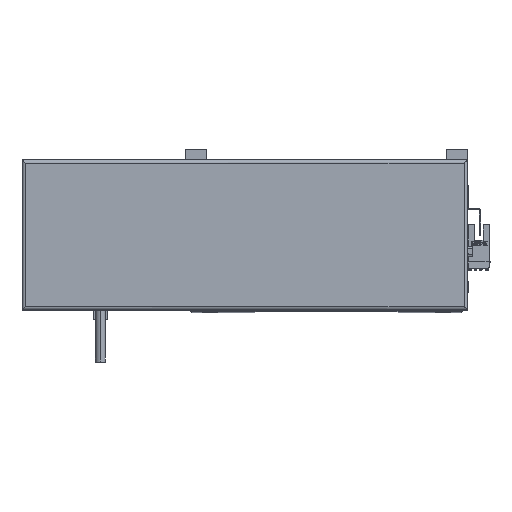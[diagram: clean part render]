
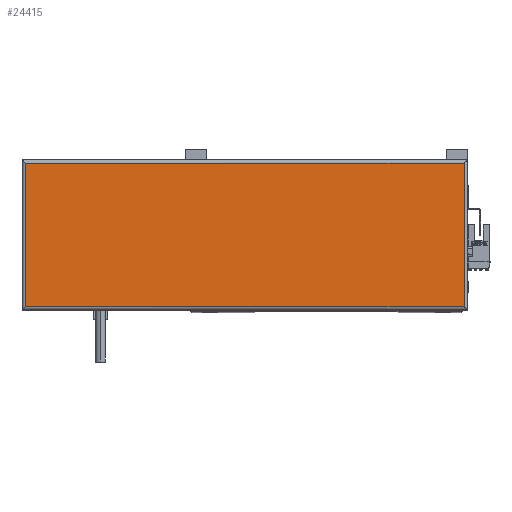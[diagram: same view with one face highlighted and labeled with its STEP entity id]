
A CAD part, top view. The second image highlights one B-rep face of the part: STEP entity #24415.
In plain terms, the highlighted planar face has unit normal (0, 0, 1).
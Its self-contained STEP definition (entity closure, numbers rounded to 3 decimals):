
#2519 = DIRECTION ( 'NONE',  ( 0., -1., 0. ) ) ;
#5099 = VECTOR ( 'NONE', #20316, 1000. ) ;
#6052 = ORIENTED_EDGE ( 'NONE', *, *, #36362, .T. ) ;
#9206 = EDGE_LOOP ( 'NONE', ( #44229, #6052, #28287, #42858 ) ) ;
#10611 = EDGE_CURVE ( 'NONE', #25715, #25072, #17831, .T. ) ;
#12348 = VERTEX_POINT ( 'NONE', #37646 ) ;
#12910 = LINE ( 'NONE', #42405, #17482 ) ;
#13332 = CARTESIAN_POINT ( 'NONE',  ( 133.5, 45., 44.8 ) ) ;
#13345 = EDGE_CURVE ( 'NONE', #45275, #12348, #16041, .T. ) ;
#13637 = CARTESIAN_POINT ( 'NONE',  ( 2., 88., 44.8 ) ) ;
#15259 = AXIS2_PLACEMENT_3D ( 'NONE', #13332, #42177, #37437 ) ;
#16041 = LINE ( 'NONE', #20583, #34576 ) ;
#17482 = VECTOR ( 'NONE', #24611, 1000. ) ;
#17831 = LINE ( 'NONE', #44525, #39218 ) ;
#20316 = DIRECTION ( 'NONE',  ( -1., 0., 0. ) ) ;
#20583 = CARTESIAN_POINT ( 'NONE',  ( 2., 0., 44.8 ) ) ;
#20858 = CARTESIAN_POINT ( 'NONE',  ( 265., 88., 44.8 ) ) ;
#23964 = EDGE_CURVE ( 'NONE', #12348, #25715, #12910, .T. ) ;
#24415 = ADVANCED_FACE ( 'NONE', ( #37739 ), #31311, .T. ) ;
#24611 = DIRECTION ( 'NONE',  ( 1., 0., 0. ) ) ;
#25072 = VERTEX_POINT ( 'NONE', #20858 ) ;
#25715 = VERTEX_POINT ( 'NONE', #31651 ) ;
#28287 = ORIENTED_EDGE ( 'NONE', *, *, #13345, .T. ) ;
#30044 = DIRECTION ( 'NONE',  ( 0., 1., 0. ) ) ;
#31311 = PLANE ( 'NONE',  #15259 ) ;
#31651 = CARTESIAN_POINT ( 'NONE',  ( 265., 2., 44.8 ) ) ;
#34576 = VECTOR ( 'NONE', #2519, 1000. ) ;
#36362 = EDGE_CURVE ( 'NONE', #25072, #45275, #36700, .T. ) ;
#36700 = LINE ( 'NONE', #38389, #5099 ) ;
#37437 = DIRECTION ( 'NONE',  ( 1., 0., 0. ) ) ;
#37646 = CARTESIAN_POINT ( 'NONE',  ( 2., 2., 44.8 ) ) ;
#37739 = FACE_OUTER_BOUND ( 'NONE', #9206, .T. ) ;
#38389 = CARTESIAN_POINT ( 'NONE',  ( 0., 88., 44.8 ) ) ;
#39218 = VECTOR ( 'NONE', #30044, 1000. ) ;
#42177 = DIRECTION ( 'NONE',  ( 0., 0., 1. ) ) ;
#42405 = CARTESIAN_POINT ( 'NONE',  ( 267., 2., 44.8 ) ) ;
#42858 = ORIENTED_EDGE ( 'NONE', *, *, #23964, .T. ) ;
#44229 = ORIENTED_EDGE ( 'NONE', *, *, #10611, .T. ) ;
#44525 = CARTESIAN_POINT ( 'NONE',  ( 265., 90., 44.8 ) ) ;
#45275 = VERTEX_POINT ( 'NONE', #13637 ) ;
